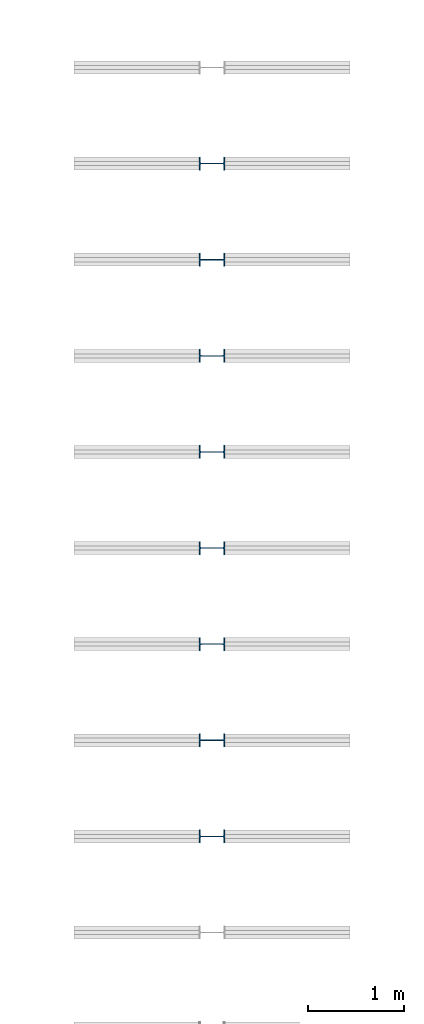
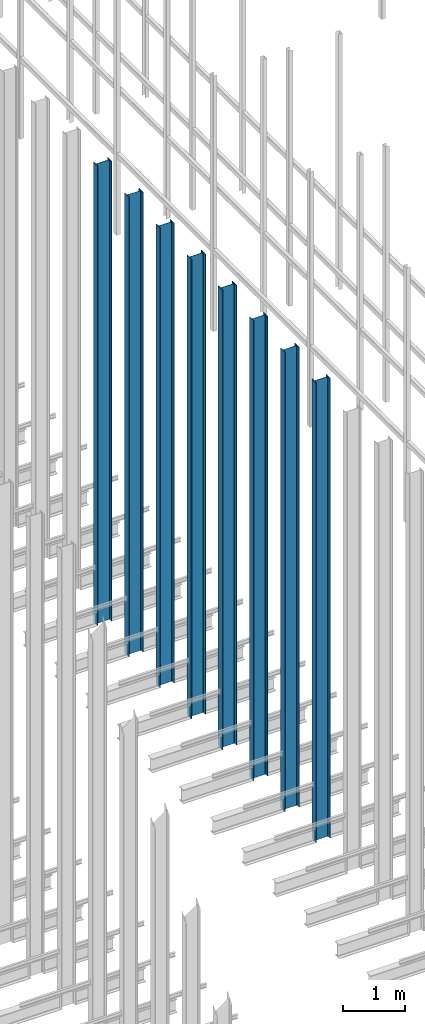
# One storey, part 51 of 302: 8 columns.
"""IFC2X3 building model written with IfcOpenShell, lengths in metres."""

from ifc_helpers import new_model, entity, si_unit, converted_unit, derived_unit, direction, frame, frame_2d, origin, place, context, subcontext, project, spatial, polyline, circle_curve, parameter, trimmed, segment, composite_curve, outline, extrude, source, transform, mapped, material, type_object, type_shapes, element, save


model = new_model("IFC2X3")

# Units and contexts
model_context = context("Model", 3, precision=1e-05, world=origin(), true_north=direction((6.12303176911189e-17, 1.0)))
body_context = subcontext(model_context, "Body", "Model", "MODEL_VIEW")
ifc_project = project(units=[si_unit("LENGTHUNIT", "METRE"), si_unit("AREAUNIT", "SQUARE_METRE"), si_unit("VOLUMEUNIT", "CUBIC_METRE"), converted_unit("PLANEANGLEUNIT", "DEGREE", entity("IfcRatioMeasure", 0.0174532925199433), si_unit("PLANEANGLEUNIT", "RADIAN"), dimensions=[0, 0, 0, 0, 0, 0, 0]), si_unit("MASSUNIT", "GRAM", prefix="KILO"), derived_unit("MASSDENSITYUNIT", [(si_unit("MASSUNIT", "GRAM", prefix="KILO"), 1), (si_unit("LENGTHUNIT", "METRE"), -3)]), derived_unit("MOMENTOFINERTIAUNIT", [(si_unit("LENGTHUNIT", "METRE"), 4)]), si_unit("TIMEUNIT", "SECOND"), si_unit("FREQUENCYUNIT", "HERTZ"), si_unit("THERMODYNAMICTEMPERATUREUNIT", "DEGREE_CELSIUS"), derived_unit("THERMALTRANSMITTANCEUNIT", [(si_unit("MASSUNIT", "GRAM", prefix="KILO"), 1), (si_unit("THERMODYNAMICTEMPERATUREUNIT", "KELVIN"), -1), (si_unit("TIMEUNIT", "SECOND"), -3)]), derived_unit("VOLUMETRICFLOWRATEUNIT", [(si_unit("LENGTHUNIT", "METRE"), 3), (si_unit("TIMEUNIT", "SECOND"), -1)]), si_unit("ELECTRICCURRENTUNIT", "AMPERE"), si_unit("ELECTRICVOLTAGEUNIT", "VOLT"), si_unit("POWERUNIT", "WATT"), si_unit("FORCEUNIT", "NEWTON", prefix="KILO"), si_unit("ILLUMINANCEUNIT", "LUX"), si_unit("LUMINOUSFLUXUNIT", "LUMEN"), si_unit("LUMINOUSINTENSITYUNIT", "CANDELA"), derived_unit("USERDEFINED", [(si_unit("MASSUNIT", "GRAM", prefix="KILO"), -1), (si_unit("LENGTHUNIT", "METRE"), -2), (si_unit("TIMEUNIT", "SECOND"), 3), (si_unit("LUMINOUSFLUXUNIT", "LUMEN"), 1)]), derived_unit("LINEARVELOCITYUNIT", [(si_unit("LENGTHUNIT", "METRE"), 1), (si_unit("TIMEUNIT", "SECOND"), -1)]), si_unit("PRESSUREUNIT", "PASCAL"), derived_unit("USERDEFINED", [(si_unit("LENGTHUNIT", "METRE"), -2), (si_unit("MASSUNIT", "GRAM", prefix="KILO"), 1), (si_unit("TIMEUNIT", "SECOND"), -2)]), derived_unit("LINEARFORCEUNIT", [(si_unit("MASSUNIT", "GRAM", prefix="KILO"), 1), (si_unit("LENGTHUNIT", "METRE"), 1), (si_unit("TIMEUNIT", "SECOND"), -2), (si_unit("LENGTHUNIT", "METRE"), -1)]), derived_unit("PLANARFORCEUNIT", [(si_unit("MASSUNIT", "GRAM", prefix="KILO"), 1), (si_unit("LENGTHUNIT", "METRE"), 1), (si_unit("TIMEUNIT", "SECOND"), -2), (si_unit("LENGTHUNIT", "METRE"), -2)])], contexts=[model_context])

# Site, building, storey
site_placement = place(None, origin())
site = spatial("IfcSite", under=ifc_project, at=site_placement, Name="Default", CompositionType="ELEMENT")
building_placement = place(site_placement, origin())
building = spatial("IfcBuilding", under=site, at=building_placement, CompositionType="ELEMENT")
storey_placement = place(building_placement, frame((0.0, 0.0, -1.3)))
storey = spatial("IfcBuildingStorey", under=building, at=storey_placement, Name="00_EG", CompositionType="ELEMENT", Elevation=-1.3)

# Columns
ifc_material = material(Name="Metall - Baustahl S235")
column_type = type_object("IfcColumnType", Name="IPE Stütze:IPE 270", PredefinedType="COLUMN", material=ifc_material)
shared_shape = source(origin(), body_context, "Body", "SweptSolid", [
    extrude(outline(composite_curve([segment(polyline([(0.1248, -0.0675), (0.135, -0.0675)]), True, "CONTINUOUS"), segment(polyline([(0.135, -0.0675), (0.135, 0.0675)]), True, "CONTINUOUS"), segment(polyline([(0.135, 0.0675), (0.1248, 0.0675)]), True, "CONTINUOUS"), segment(polyline([(0.1248, 0.0675), (0.1248, 0.0183)]), True, "CONTINUOUS"), segment(trimmed(circle_curve(frame_2d((0.1098, 0.0183), x_axis=(1.0, 0.0)), 0.015), [parameter(270.0)], [parameter(0.0)], True, "PARAMETER"), False, "CONTINUOUS"), segment(polyline([(0.1098, 0.0033), (-0.1098, 0.0033)]), True, "CONTINUOUS"), segment(trimmed(circle_curve(frame_2d((-0.1098, 0.0183), x_axis=(0.0, -1.0)), 0.015), [parameter(270.0)], [parameter(0.0)], True, "PARAMETER"), False, "CONTINUOUS"), segment(polyline([(-0.1248, 0.0183), (-0.1248, 0.0675)]), True, "CONTINUOUS"), segment(polyline([(-0.1248, 0.0675), (-0.135, 0.0675)]), True, "CONTINUOUS"), segment(polyline([(-0.135, 0.0675), (-0.135, -0.0675)]), True, "CONTINUOUS"), segment(polyline([(-0.135, -0.0675), (-0.1248, -0.0675)]), True, "CONTINUOUS"), segment(polyline([(-0.1248, -0.0675), (-0.1248, -0.0183)]), True, "CONTINUOUS"), segment(trimmed(circle_curve(frame_2d((-0.1098, -0.0183), x_axis=(-1.0, 0.0)), 0.015), [parameter(269.999999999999)], [parameter(0.0)], True, "PARAMETER"), False, "CONTINUOUS"), segment(polyline([(-0.1098, -0.0033), (0.1098, -0.0033)]), True, "CONTINUOUS"), segment(trimmed(circle_curve(frame_2d((0.1098, -0.0183), x_axis=(0.0, 1.0)), 0.015), [parameter(270.0)], [parameter(0.0)], True, "PARAMETER"), False, "CONTINUOUS"), segment(polyline([(0.1248, -0.0183), (0.1248, -0.0675)]), True, "CONTINUOUS")], self_intersect=False)), frame((0.0, 0.0, -0.0300000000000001), z_axis=(0.0, 0.0, 1.0), x_axis=(0.0, -1.0, 0.0)), (0.0, 0.0, 1.0), 9.0),
])
type_shapes(column_type, [shared_shape])
for number, where, z_axis, x_axis in (
    (1, (-164.775111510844, 39.015588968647, 1.3), (0.0, 0.0, 1.0), (0.0, 1.0, 0.0)),
    (2, (-164.775111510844, 38.015588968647, 1.3), (0.0, 0.0, 1.0), (0.0, 1.0, 0.0)),
    (3, (-164.775111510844, 37.015588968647, 1.3), (0.0, 0.0, 1.0), (0.0, 1.0, 0.0)),
    (4, (-164.775111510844, 36.015588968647, 1.3), (0.0, 0.0, 1.0), (0.0, 1.0, 0.0)),
    (5, (-164.775111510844, 35.015588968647, 1.3), (0.0, 0.0, 1.0), (0.0, 1.0, 0.0)),
    (6, (-164.775111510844, 34.015588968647, 1.3), (0.0, 0.0, 1.0), (0.0, 1.0, 0.0)),
    (7, (-164.775111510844, 33.015588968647, 1.3), (0.0, 0.0, 1.0), (0.0, 1.0, 0.0)),
    (8, (-164.775111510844, 32.015588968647, 1.3), (0.0, 0.0, 1.0), (0.0, 1.0, 0.0)),
):
    element("IfcColumn", number, at=place(storey_placement, frame(where, z_axis=z_axis, x_axis=x_axis)), inside=storey, type_object=column_type, material=ifc_material, Name="IPE Stütze:IPE 270", ObjectType="IPE Stütze:IPE 270", context=body_context, shape_type="MappedRepresentation", body=[
        mapped(shared_shape, transform((0.0, 0.0, 0.0), scale=1.0)),
    ])

save(model, "model.ifc")
